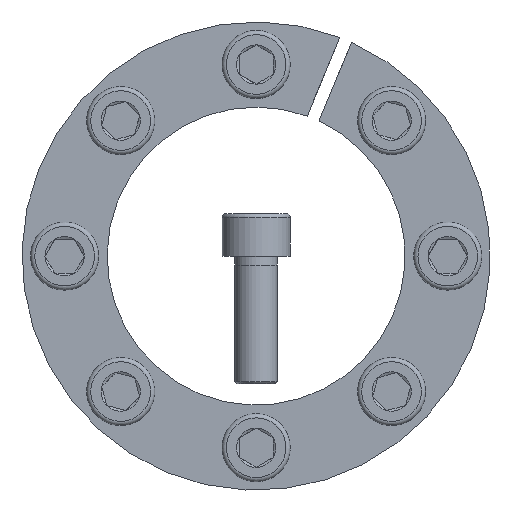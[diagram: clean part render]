
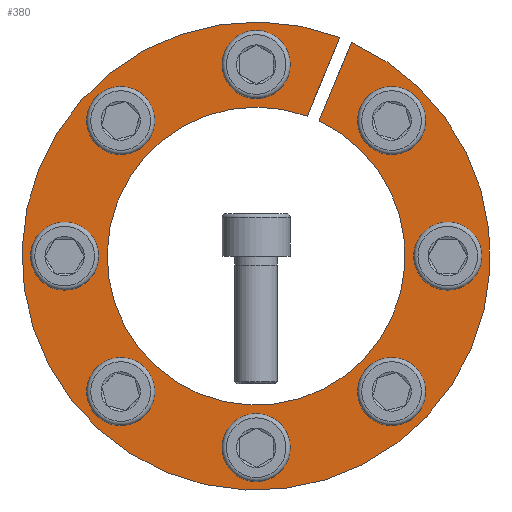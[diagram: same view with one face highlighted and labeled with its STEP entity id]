
A CAD part, front view. The second image highlights one B-rep face of the part: STEP entity #380.
In plain terms, the highlighted planar face has unit normal (0, -1, 0).
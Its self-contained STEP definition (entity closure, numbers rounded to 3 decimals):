
#380 = ADVANCED_FACE( '', ( #583, #584, #585, #586, #587, #588, #589, #590, #591 ), #592, .F. );
#583 = FACE_BOUND( '', #747, .T. );
#584 = FACE_BOUND( '', #748, .T. );
#585 = FACE_BOUND( '', #749, .T. );
#586 = FACE_BOUND( '', #750, .T. );
#587 = FACE_OUTER_BOUND( '', #751, .T. );
#588 = FACE_BOUND( '', #752, .T. );
#589 = FACE_BOUND( '', #753, .T. );
#590 = FACE_BOUND( '', #754, .T. );
#591 = FACE_BOUND( '', #755, .T. );
#592 = PLANE( '', #756 );
#747 = EDGE_LOOP( '', ( #960 ) );
#748 = EDGE_LOOP( '', ( #961 ) );
#749 = EDGE_LOOP( '', ( #962 ) );
#750 = EDGE_LOOP( '', ( #963 ) );
#751 = EDGE_LOOP( '', ( #964, #965, #966, #967 ) );
#752 = EDGE_LOOP( '', ( #968 ) );
#753 = EDGE_LOOP( '', ( #969 ) );
#754 = EDGE_LOOP( '', ( #970 ) );
#755 = EDGE_LOOP( '', ( #971 ) );
#756 = AXIS2_PLACEMENT_3D( '', #972, #973, #974 );
#960 = ORIENTED_EDGE( '', *, *, #1294, .T. );
#961 = ORIENTED_EDGE( '', *, *, #1295, .T. );
#962 = ORIENTED_EDGE( '', *, *, #1296, .T. );
#963 = ORIENTED_EDGE( '', *, *, #1297, .T. );
#964 = ORIENTED_EDGE( '', *, *, #1292, .F. );
#965 = ORIENTED_EDGE( '', *, *, #1288, .F. );
#966 = ORIENTED_EDGE( '', *, *, #1298, .T. );
#967 = ORIENTED_EDGE( '', *, *, #1299, .F. );
#968 = ORIENTED_EDGE( '', *, *, #1300, .T. );
#969 = ORIENTED_EDGE( '', *, *, #1301, .T. );
#970 = ORIENTED_EDGE( '', *, *, #1302, .T. );
#971 = ORIENTED_EDGE( '', *, *, #1303, .T. );
#972 = CARTESIAN_POINT( '', ( 0., 0., 55. ) );
#973 = DIRECTION( '', ( 0., 1., 0. ) );
#974 = DIRECTION( '', ( 0., 0., 1. ) );
#1288 = EDGE_CURVE( '', #1423, #1425, #1426, .T. );
#1292 = EDGE_CURVE( '', #1425, #1432, #1433, .T. );
#1294 = EDGE_CURVE( '', #1435, #1435, #1436, .T. );
#1295 = EDGE_CURVE( '', #1437, #1437, #1438, .T. );
#1296 = EDGE_CURVE( '', #1439, #1439, #1440, .T. );
#1297 = EDGE_CURVE( '', #1441, #1441, #1442, .T. );
#1298 = EDGE_CURVE( '', #1423, #1443, #1444, .T. );
#1299 = EDGE_CURVE( '', #1432, #1443, #1445, .T. );
#1300 = EDGE_CURVE( '', #1446, #1446, #1447, .T. );
#1301 = EDGE_CURVE( '', #1448, #1448, #1449, .T. );
#1302 = EDGE_CURVE( '', #1450, #1450, #1451, .T. );
#1303 = EDGE_CURVE( '', #1452, #1452, #1453, .T. );
#1423 = VERTEX_POINT( '', #1551 );
#1425 = VERTEX_POINT( '', #1554 );
#1426 = LINE( '', #1555, #1556 );
#1432 = VERTEX_POINT( '', #1564 );
#1433 = CIRCLE( '', #1565, 35. );
#1435 = VERTEX_POINT( '', #1568 );
#1436 = CIRCLE( '', #1569, 5. );
#1437 = VERTEX_POINT( '', #1570 );
#1438 = CIRCLE( '', #1571, 5. );
#1439 = VERTEX_POINT( '', #1572 );
#1440 = CIRCLE( '', #1573, 5. );
#1441 = VERTEX_POINT( '', #1574 );
#1442 = CIRCLE( '', #1575, 5. );
#1443 = VERTEX_POINT( '', #1576 );
#1444 = CIRCLE( '', #1577, 55. );
#1445 = LINE( '', #1578, #1579 );
#1446 = VERTEX_POINT( '', #1580 );
#1447 = CIRCLE( '', #1581, 5. );
#1448 = VERTEX_POINT( '', #1582 );
#1449 = CIRCLE( '', #1583, 5. );
#1450 = VERTEX_POINT( '', #1584 );
#1451 = CIRCLE( '', #1585, 5. );
#1452 = VERTEX_POINT( '', #1586 );
#1453 = CIRCLE( '', #1587, 5. );
#1551 = CARTESIAN_POINT( '', ( 19.654, 0., 51.368 ) );
#1554 = CARTESIAN_POINT( '', ( 11.996, 0., 32.88 ) );
#1555 = CARTESIAN_POINT( '', ( 19.662, 0., 51.387 ) );
#1556 = VECTOR( '', #1674, 1000. );
#1564 = CARTESIAN_POINT( '', ( 14.767, 0., 31.732 ) );
#1565 = AXIS2_PLACEMENT_3D( '', #1680, #1681, #1682 );
#1568 = CARTESIAN_POINT( '', ( -45., 0., 5. ) );
#1569 = AXIS2_PLACEMENT_3D( '', #1684, #1685, #1686 );
#1570 = CARTESIAN_POINT( '', ( -5., 0., -45. ) );
#1571 = AXIS2_PLACEMENT_3D( '', #1687, #1688, #1689 );
#1572 = CARTESIAN_POINT( '', ( 45., 0., -5. ) );
#1573 = AXIS2_PLACEMENT_3D( '', #1690, #1691, #1692 );
#1574 = CARTESIAN_POINT( '', ( 5., 0., 45. ) );
#1575 = AXIS2_PLACEMENT_3D( '', #1693, #1694, #1695 );
#1576 = CARTESIAN_POINT( '', ( 22.426, 0., 50.22 ) );
#1577 = AXIS2_PLACEMENT_3D( '', #1696, #1697, #1698 );
#1578 = CARTESIAN_POINT( '', ( 14.767, 0., 31.732 ) );
#1579 = VECTOR( '', #1699, 1000. );
#1580 = CARTESIAN_POINT( '', ( 35.355, 0., 28.284 ) );
#1581 = AXIS2_PLACEMENT_3D( '', #1700, #1701, #1702 );
#1582 = CARTESIAN_POINT( '', ( 28.284, 0., -35.355 ) );
#1583 = AXIS2_PLACEMENT_3D( '', #1703, #1704, #1705 );
#1584 = CARTESIAN_POINT( '', ( -35.355, 0., -28.284 ) );
#1585 = AXIS2_PLACEMENT_3D( '', #1706, #1707, #1708 );
#1586 = CARTESIAN_POINT( '', ( -28.284, 0., 35.355 ) );
#1587 = AXIS2_PLACEMENT_3D( '', #1709, #1710, #1711 );
#1674 = DIRECTION( '', ( -0.383, 0., -0.924 ) );
#1680 = CARTESIAN_POINT( '', ( 0., 0., 0. ) );
#1681 = DIRECTION( '', ( 0., -1., 0. ) );
#1682 = DIRECTION( '', ( 0., 0., -1. ) );
#1684 = CARTESIAN_POINT( '', ( -45., 0., 0. ) );
#1685 = DIRECTION( '', ( 0., 1., 0. ) );
#1686 = DIRECTION( '', ( 0., 0., 1. ) );
#1687 = CARTESIAN_POINT( '', ( 0., 0., -45. ) );
#1688 = DIRECTION( '', ( 0., 1., 0. ) );
#1689 = DIRECTION( '', ( -1., 0., 0. ) );
#1690 = CARTESIAN_POINT( '', ( 45., 0., 0. ) );
#1691 = DIRECTION( '', ( 0., 1., 0. ) );
#1692 = DIRECTION( '', ( 0., 0., -1. ) );
#1693 = CARTESIAN_POINT( '', ( 0., 0., 45. ) );
#1694 = DIRECTION( '', ( 0., 1., 0. ) );
#1695 = DIRECTION( '', ( 1., 0., 0. ) );
#1696 = CARTESIAN_POINT( '', ( 0., 0., 0. ) );
#1697 = DIRECTION( '', ( 0., -1., 0. ) );
#1698 = DIRECTION( '', ( 0., 0., -1. ) );
#1699 = DIRECTION( '', ( 0.383, 0., 0.924 ) );
#1700 = CARTESIAN_POINT( '', ( 31.82, 0., 31.82 ) );
#1701 = DIRECTION( '', ( 0., 1., 0. ) );
#1702 = DIRECTION( '', ( 0.707, 0., -0.707 ) );
#1703 = CARTESIAN_POINT( '', ( 31.82, 0., -31.82 ) );
#1704 = DIRECTION( '', ( 0., 1., 0. ) );
#1705 = DIRECTION( '', ( -0.707, 0., -0.707 ) );
#1706 = CARTESIAN_POINT( '', ( -31.82, 0., -31.82 ) );
#1707 = DIRECTION( '', ( 0., 1., 0. ) );
#1708 = DIRECTION( '', ( -0.707, 0., 0.707 ) );
#1709 = CARTESIAN_POINT( '', ( -31.82, 0., 31.82 ) );
#1710 = DIRECTION( '', ( 0., 1., 0. ) );
#1711 = DIRECTION( '', ( 0.707, 0., 0.707 ) );
